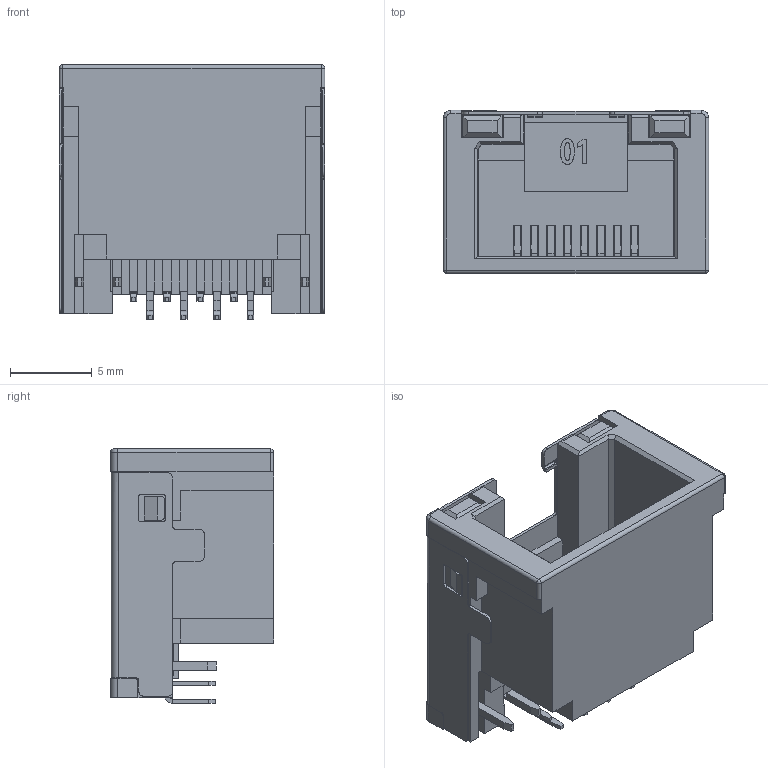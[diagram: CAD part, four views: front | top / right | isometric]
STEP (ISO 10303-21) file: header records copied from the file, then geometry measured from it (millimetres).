
FILE_DESCRIPTION((''),'2;1');
FILE_NAME('DGKYDCB431188AB1W6DB1B075_ASM','2021-04-08T14:36:12',('Administrator'),(''),'CREO PARAMETRIC BY PTC INC, 2018400','CREO PARAMETRIC BY PTC INC, 2018400','');
FILE_SCHEMA(('CONFIG_CONTROL_DESIGN'));
Length unit declared in the file: millimetre
Products named in the file (34): MSBR-32; MSBR-31; MSBR-30; MSBR-29; MSBR-28; MSBR-27; MSBR-26; MSBR-25; MSBR-24; MSBR-23; MSBR-22; MSBR-21; MSBR-20; MSBR-19; MSBR-18; MSBR-17; MSBR-16; MSBR-15; MSBR-14; MSBR-13; MSBR-12; MSBR-11; MSBR-10; MSBR-9; MSBR-8; MSBR-7; MSBR-6; MSBR-5; MSBR-4; MSBR-3; MSBR-2; MSBR-1; _DGKYDCB431188AB1W6DB1B075; DGKYDCB431188AB1W6DB1B075_ASM
Assembly tree (33 placements, depth 2):
  DGKYDCB431188AB1W6DB1B075_ASM
    MSBR-32
    MSBR-31
    MSBR-30
    MSBR-29
    MSBR-28
    MSBR-27
    MSBR-26
    MSBR-25
    MSBR-24
    MSBR-23
    MSBR-22
    MSBR-21
    MSBR-20
    MSBR-19
    MSBR-18
    MSBR-17
    MSBR-16
    MSBR-15
    MSBR-14
    MSBR-13
    MSBR-12
    MSBR-11
    MSBR-10
    MSBR-9
    MSBR-8
    MSBR-7
    MSBR-6
    MSBR-5
    MSBR-4
    MSBR-3
    MSBR-2
    MSBR-1
    _DGKYDCB431188AB1W6DB1B075
Bounding box: 16.2 x 9.95 x 15.52 mm (x, y, z)
Volume: 662.5 mm3; surface area: 2635.5 mm2
Topology: 32 solids, 36 shells, 1126 faces, 3017 edges, 1908 vertices
Faces by surface type: plane 933, cylinder 169, extrusion 18, bspline 2, torus 2, sphere 2
Entity records: 35506 total; most frequent: CARTESIAN_POINT 6733, ORIENTED_EDGE 5950, DIRECTION 5627, EDGE_CURVE 3015, VECTOR 2581, LINE 2563, VERTEX_POINT 1908, AXIS2_PLACEMENT_3D 1523
